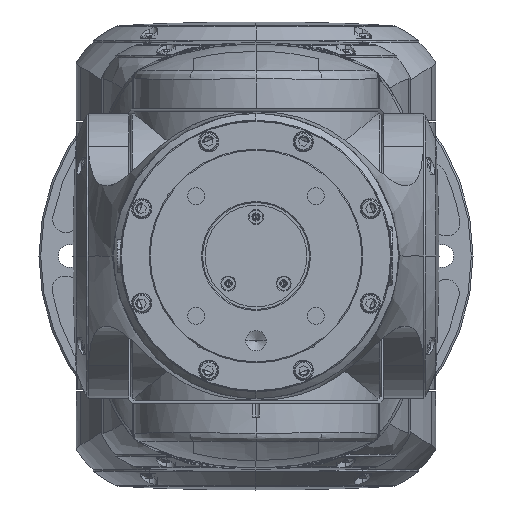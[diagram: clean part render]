
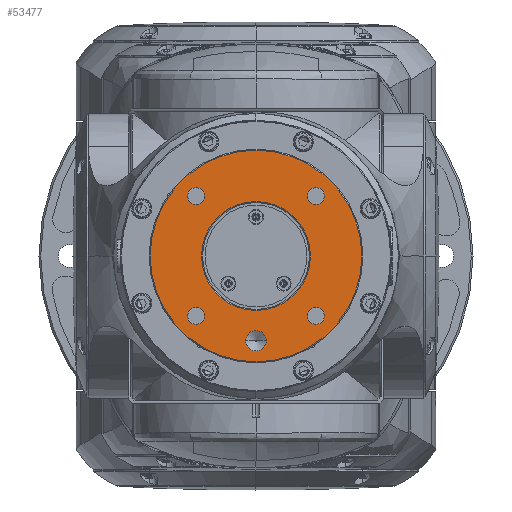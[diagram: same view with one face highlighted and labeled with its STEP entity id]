
A CAD part, front view. The second image highlights one B-rep face of the part: STEP entity #53477.
In plain terms, the highlighted planar face has unit normal (0, -1, 0) as drawn and (1, 0, 0) by its records, which use the part's own axes.
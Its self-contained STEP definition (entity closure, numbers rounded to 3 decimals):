
#230 = DIRECTION ( 'NONE',  ( 1., 0., 0. ) ) ;
#341 = AXIS2_PLACEMENT_3D ( 'NONE', #28796, #76990, #41768 ) ;
#1773 = AXIS2_PLACEMENT_3D ( 'NONE', #55418, #27957, #76158 ) ;
#3397 = CIRCLE ( 'NONE', #65526, 31.2 ) ;
#3815 = FACE_BOUND ( 'NONE', #78423, .T. ) ;
#4353 = DIRECTION ( 'NONE',  ( 0., -1., 0. ) ) ;
#4823 = VERTEX_POINT ( 'NONE', #88116 ) ;
#4951 = AXIS2_PLACEMENT_3D ( 'NONE', #41798, #230, #83036 ) ;
#5508 = DIRECTION ( 'NONE',  ( 1., 0., 0. ) ) ;
#5986 = FACE_BOUND ( 'NONE', #29493, .T. ) ;
#6824 = CIRCLE ( 'NONE', #341, 2.5 ) ;
#7032 = CIRCLE ( 'NONE', #1773, 16.05 ) ;
#7303 = AXIS2_PLACEMENT_3D ( 'NONE', #23536, #17486, #10548 ) ;
#7397 = CARTESIAN_POINT ( 'NONE',  ( 884., 17.678, 17.678 ) ) ;
#8017 = CARTESIAN_POINT ( 'NONE',  ( 884., 17.678, 17.678 ) ) ;
#8142 = FACE_OUTER_BOUND ( 'NONE', #52813, .T. ) ;
#8325 = CARTESIAN_POINT ( 'NONE',  ( 884., 15.178, 17.678 ) ) ;
#10535 = VERTEX_POINT ( 'NONE', #16590 ) ;
#10548 = DIRECTION ( 'NONE',  ( 0., -1., 0. ) ) ;
#11841 = CARTESIAN_POINT ( 'NONE',  ( 884., 0., 0. ) ) ;
#12262 = CARTESIAN_POINT ( 'NONE',  ( 884., 0., 0. ) ) ;
#15516 = DIRECTION ( 'NONE',  ( 1., 0., 0. ) ) ;
#16310 = EDGE_LOOP ( 'NONE', ( #35545, #32746 ) ) ;
#16590 = CARTESIAN_POINT ( 'NONE',  ( 884., -16.05, 0. ) ) ;
#17171 = CIRCLE ( 'NONE', #7303, 16.05 ) ;
#17406 = VERTEX_POINT ( 'NONE', #63919 ) ;
#17486 = DIRECTION ( 'NONE',  ( -1., 0., 0. ) ) ;
#17847 = DIRECTION ( 'NONE',  ( 0., -1., 0. ) ) ;
#18356 = ORIENTED_EDGE ( 'NONE', *, *, #29904, .F. ) ;
#18836 = VERTEX_POINT ( 'NONE', #64252 ) ;
#18908 = CARTESIAN_POINT ( 'NONE',  ( 884., 0., 0. ) ) ;
#19672 = AXIS2_PLACEMENT_3D ( 'NONE', #88013, #5508, #17847 ) ;
#19762 = DIRECTION ( 'NONE',  ( 1., 0., 0. ) ) ;
#19794 = EDGE_CURVE ( 'NONE', #28059, #47767, #6824, .T. ) ;
#20436 = VERTEX_POINT ( 'NONE', #79607 ) ;
#20926 = CARTESIAN_POINT ( 'NONE',  ( 884., -3., -25. ) ) ;
#22687 = CARTESIAN_POINT ( 'NONE',  ( 884., 0., -25. ) ) ;
#23325 = ORIENTED_EDGE ( 'NONE', *, *, #19794, .F. ) ;
#23536 = CARTESIAN_POINT ( 'NONE',  ( 884., 0., 0. ) ) ;
#24032 = AXIS2_PLACEMENT_3D ( 'NONE', #48832, #69619, #76524 ) ;
#25174 = CIRCLE ( 'NONE', #85412, 31.2 ) ;
#26024 = ORIENTED_EDGE ( 'NONE', *, *, #37407, .T. ) ;
#26140 = VERTEX_POINT ( 'NONE', #20926 ) ;
#26340 = EDGE_CURVE ( 'NONE', #26427, #4823, #42888, .T. ) ;
#26427 = VERTEX_POINT ( 'NONE', #50944 ) ;
#26454 = FACE_BOUND ( 'NONE', #30060, .T. ) ;
#27957 = DIRECTION ( 'NONE',  ( -1., 0., 0. ) ) ;
#28059 = VERTEX_POINT ( 'NONE', #45109 ) ;
#28796 = CARTESIAN_POINT ( 'NONE',  ( 884., -17.678, 17.678 ) ) ;
#29493 = EDGE_LOOP ( 'NONE', ( #33507, #26024 ) ) ;
#29904 = EDGE_CURVE ( 'NONE', #34830, #59137, #43131, .T. ) ;
#30060 = EDGE_LOOP ( 'NONE', ( #23325, #84335 ) ) ;
#30231 = DIRECTION ( 'NONE',  ( 0., -1., 0. ) ) ;
#31326 = AXIS2_PLACEMENT_3D ( 'NONE', #7397, #55046, #56236 ) ;
#31447 = EDGE_LOOP ( 'NONE', ( #39081, #44931 ) ) ;
#32746 = ORIENTED_EDGE ( 'NONE', *, *, #38697, .F. ) ;
#33118 = CIRCLE ( 'NONE', #51931, 2.5 ) ;
#33507 = ORIENTED_EDGE ( 'NONE', *, *, #74368, .T. ) ;
#34516 = DIRECTION ( 'NONE',  ( 0., -1., 0. ) ) ;
#34830 = VERTEX_POINT ( 'NONE', #55997 ) ;
#35545 = ORIENTED_EDGE ( 'NONE', *, *, #42145, .F. ) ;
#36210 = DIRECTION ( 'NONE',  ( 0., -1., 0. ) ) ;
#36232 = CARTESIAN_POINT ( 'NONE',  ( 884., 31.2, 0. ) ) ;
#36581 = EDGE_CURVE ( 'NONE', #18836, #26140, #66448, .T. ) ;
#37407 = EDGE_CURVE ( 'NONE', #62956, #10535, #7032, .T. ) ;
#38697 = EDGE_CURVE ( 'NONE', #20436, #72090, #75923, .T. ) ;
#39081 = ORIENTED_EDGE ( 'NONE', *, *, #63562, .F. ) ;
#40477 = FACE_BOUND ( 'NONE', #31447, .T. ) ;
#41768 = DIRECTION ( 'NONE',  ( 0., -1., 0. ) ) ;
#41798 = CARTESIAN_POINT ( 'NONE',  ( 884., -17.678, 17.678 ) ) ;
#42145 = EDGE_CURVE ( 'NONE', #72090, #20436, #53013, .T. ) ;
#42888 = CIRCLE ( 'NONE', #19672, 2.5 ) ;
#43131 = CIRCLE ( 'NONE', #58496, 2.5 ) ;
#43237 = DIRECTION ( 'NONE',  ( 0., -1., 0. ) ) ;
#43989 = AXIS2_PLACEMENT_3D ( 'NONE', #12262, #80653, #74627 ) ;
#44740 = CARTESIAN_POINT ( 'NONE',  ( 884., 17.678, -17.678 ) ) ;
#44931 = ORIENTED_EDGE ( 'NONE', *, *, #36581, .F. ) ;
#45109 = CARTESIAN_POINT ( 'NONE',  ( 884., -20.178, 17.678 ) ) ;
#47529 = EDGE_CURVE ( 'NONE', #4823, #26427, #56223, .T. ) ;
#47767 = VERTEX_POINT ( 'NONE', #49966 ) ;
#48599 = ORIENTED_EDGE ( 'NONE', *, *, #79108, .F. ) ;
#48832 = CARTESIAN_POINT ( 'NONE',  ( 884., -17.678, -17.678 ) ) ;
#49801 = CIRCLE ( 'NONE', #4951, 2.5 ) ;
#49966 = CARTESIAN_POINT ( 'NONE',  ( 884., -15.178, 17.678 ) ) ;
#50944 = CARTESIAN_POINT ( 'NONE',  ( 884., -15.178, -17.678 ) ) ;
#51931 = AXIS2_PLACEMENT_3D ( 'NONE', #44740, #84846, #57448 ) ;
#52813 = EDGE_LOOP ( 'NONE', ( #70561, #61145 ) ) ;
#53013 = CIRCLE ( 'NONE', #31326, 2.5 ) ;
#53477 = ADVANCED_FACE ( 'NONE', ( #8142, #5986, #63122, #26454, #64248, #3815, #40477 ), #74933, .T. ) ;
#55046 = DIRECTION ( 'NONE',  ( 1., 0., 0. ) ) ;
#55418 = CARTESIAN_POINT ( 'NONE',  ( 884., 0., 0. ) ) ;
#55824 = CIRCLE ( 'NONE', #77240, 3. ) ;
#55997 = CARTESIAN_POINT ( 'NONE',  ( 884., 15.178, -17.678 ) ) ;
#56223 = CIRCLE ( 'NONE', #24032, 2.5 ) ;
#56236 = DIRECTION ( 'NONE',  ( 0., -1., 0. ) ) ;
#57448 = DIRECTION ( 'NONE',  ( 0., -1., 0. ) ) ;
#57744 = EDGE_CURVE ( 'NONE', #17406, #59816, #3397, .T. ) ;
#58496 = AXIS2_PLACEMENT_3D ( 'NONE', #81799, #19762, #34516 ) ;
#59137 = VERTEX_POINT ( 'NONE', #79716 ) ;
#59816 = VERTEX_POINT ( 'NONE', #36232 ) ;
#61145 = ORIENTED_EDGE ( 'NONE', *, *, #57744, .T. ) ;
#62871 = AXIS2_PLACEMENT_3D ( 'NONE', #22687, #64573, #30231 ) ;
#62956 = VERTEX_POINT ( 'NONE', #71509 ) ;
#63122 = FACE_BOUND ( 'NONE', #16310, .T. ) ;
#63562 = EDGE_CURVE ( 'NONE', #26140, #18836, #55824, .T. ) ;
#63621 = DIRECTION ( 'NONE',  ( 1., 0., 0. ) ) ;
#63919 = CARTESIAN_POINT ( 'NONE',  ( 884., -31.2, 0. ) ) ;
#64248 = FACE_BOUND ( 'NONE', #88327, .T. ) ;
#64252 = CARTESIAN_POINT ( 'NONE',  ( 884., 3., -25. ) ) ;
#64573 = DIRECTION ( 'NONE',  ( 1., 0., 0. ) ) ;
#65526 = AXIS2_PLACEMENT_3D ( 'NONE', #18908, #67755, #81248 ) ;
#66448 = CIRCLE ( 'NONE', #62871, 3. ) ;
#67637 = EDGE_CURVE ( 'NONE', #59816, #17406, #25174, .T. ) ;
#67755 = DIRECTION ( 'NONE',  ( 1., 0., 0. ) ) ;
#69619 = DIRECTION ( 'NONE',  ( 1., 0., 0. ) ) ;
#70561 = ORIENTED_EDGE ( 'NONE', *, *, #67637, .T. ) ;
#71509 = CARTESIAN_POINT ( 'NONE',  ( 884., 16.05, 0. ) ) ;
#71738 = CARTESIAN_POINT ( 'NONE',  ( 884., 0., -25. ) ) ;
#71985 = EDGE_CURVE ( 'NONE', #47767, #28059, #49801, .T. ) ;
#72090 = VERTEX_POINT ( 'NONE', #8325 ) ;
#72226 = AXIS2_PLACEMENT_3D ( 'NONE', #8017, #15516, #43237 ) ;
#74015 = ORIENTED_EDGE ( 'NONE', *, *, #47529, .F. ) ;
#74368 = EDGE_CURVE ( 'NONE', #10535, #62956, #17171, .T. ) ;
#74627 = DIRECTION ( 'NONE',  ( 0., 1., 0. ) ) ;
#74933 = PLANE ( 'NONE',  #43989 ) ;
#75923 = CIRCLE ( 'NONE', #72226, 2.5 ) ;
#76158 = DIRECTION ( 'NONE',  ( 0., -1., 0. ) ) ;
#76524 = DIRECTION ( 'NONE',  ( 0., -1., 0. ) ) ;
#76990 = DIRECTION ( 'NONE',  ( 1., 0., 0. ) ) ;
#77240 = AXIS2_PLACEMENT_3D ( 'NONE', #71738, #63621, #36210 ) ;
#78423 = EDGE_LOOP ( 'NONE', ( #18356, #48599 ) ) ;
#79108 = EDGE_CURVE ( 'NONE', #59137, #34830, #33118, .T. ) ;
#79442 = ORIENTED_EDGE ( 'NONE', *, *, #26340, .F. ) ;
#79607 = CARTESIAN_POINT ( 'NONE',  ( 884., 20.178, 17.678 ) ) ;
#79716 = CARTESIAN_POINT ( 'NONE',  ( 884., 20.178, -17.678 ) ) ;
#80653 = DIRECTION ( 'NONE',  ( 1., 0., 0. ) ) ;
#81248 = DIRECTION ( 'NONE',  ( 0., -1., 0. ) ) ;
#81799 = CARTESIAN_POINT ( 'NONE',  ( 884., 17.678, -17.678 ) ) ;
#83036 = DIRECTION ( 'NONE',  ( 0., -1., 0. ) ) ;
#84335 = ORIENTED_EDGE ( 'NONE', *, *, #71985, .F. ) ;
#84846 = DIRECTION ( 'NONE',  ( 1., 0., 0. ) ) ;
#85412 = AXIS2_PLACEMENT_3D ( 'NONE', #11841, #87177, #4353 ) ;
#87177 = DIRECTION ( 'NONE',  ( 1., 0., 0. ) ) ;
#88013 = CARTESIAN_POINT ( 'NONE',  ( 884., -17.678, -17.678 ) ) ;
#88116 = CARTESIAN_POINT ( 'NONE',  ( 884., -20.178, -17.678 ) ) ;
#88327 = EDGE_LOOP ( 'NONE', ( #74015, #79442 ) ) ;
